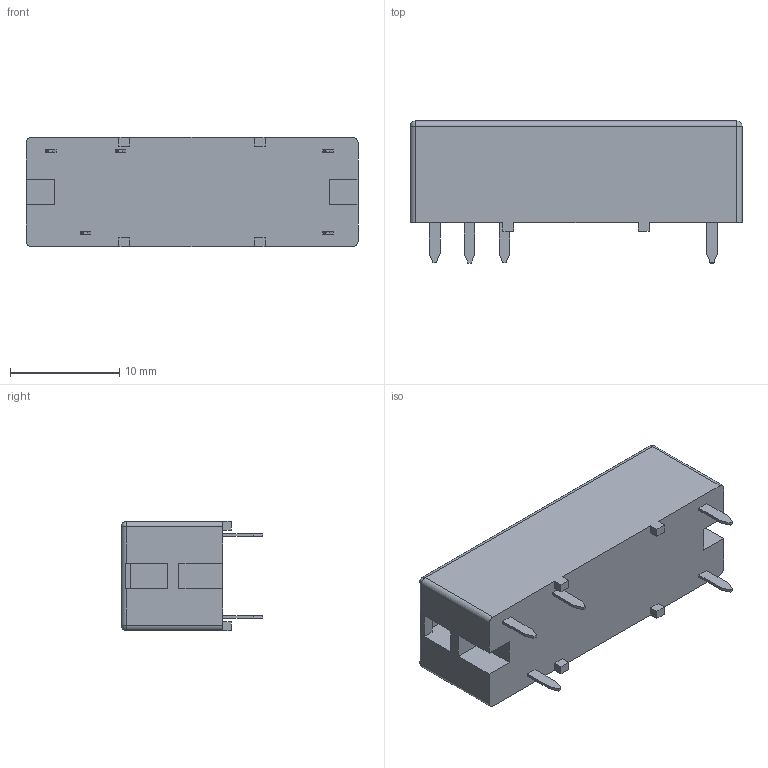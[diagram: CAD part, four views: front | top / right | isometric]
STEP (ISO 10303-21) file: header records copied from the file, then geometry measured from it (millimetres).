
FILE_DESCRIPTION(/* description */ (''),/* implementation_level */ '2;1');
FILE_NAME(/* name */ 'C:\Desktop\95.23.stp',/* time_stamp */ '2018-03-02T11:33:22+01:00',/* author */ ('marco'),/* organization */ (''),/* preprocessor_version */ 'ST-DEVELOPER v16.5',/* originating_system */ 'Autodesk Inventor 2017',/* authorisation */ '');
FILE_SCHEMA (('AUTOMOTIVE_DESIGN { 1 0 10303 214 3 1 1 }'));
Length unit declared in the file: millimetre
Products named in the file (1): 95.23
Bounding box: 30.4 x 13 x 10 mm (x, y, z)
Volume: 2719.6 mm3; surface area: 1545.2 mm2
Topology: 1 solids, 1 shells, 128 faces, 336 edges, 220 vertices
Faces by surface type: plane 116, cylinder 8, sphere 4
Entity records: 3930 total; most frequent: CARTESIAN_POINT 685, ORIENTED_EDGE 672, DIRECTION 614, EDGE_CURVE 336, LINE 316, VECTOR 316, VERTEX_POINT 220, AXIS2_PLACEMENT_3D 149
